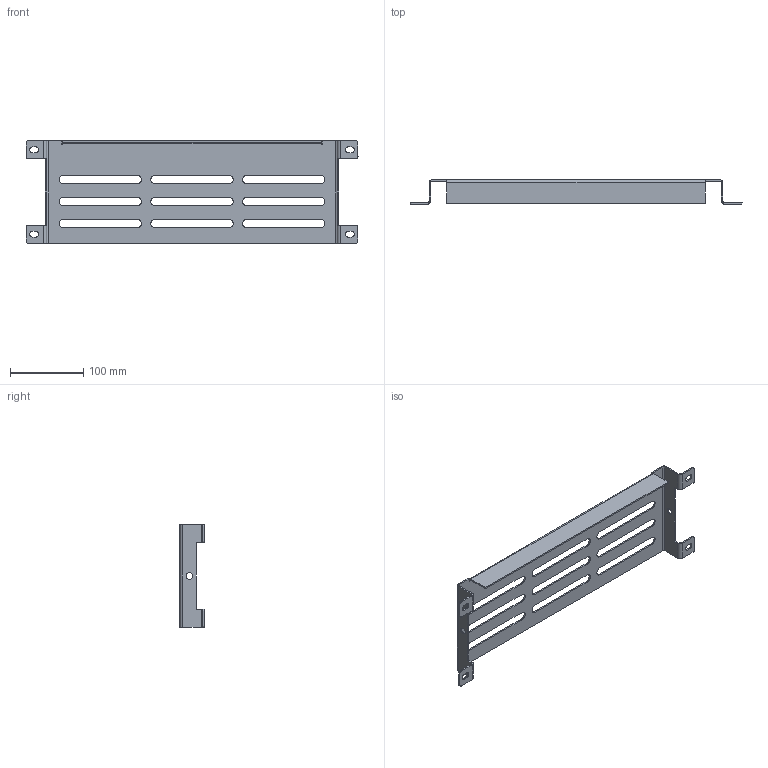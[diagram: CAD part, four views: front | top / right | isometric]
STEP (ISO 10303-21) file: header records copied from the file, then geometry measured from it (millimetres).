
FILE_DESCRIPTION (( 'STEP AP203' ), '1' );
FILE_NAME ('ORW-72.24.20.001 Ñòåíêà âîçäóøíîãî ôèëüòðà.STEP', '2025-10-13T13:18:56', ( 'Àíäðåé' ), ( '' ), 'SwSTEP 2.0', 'SolidWorks 2025', '' );
FILE_SCHEMA (( 'CONFIG_CONTROL_DESIGN' ));
Length unit declared in the file: millimetre
Products named in the file (1): ORW-72.24.20.001 Стенка воздушного фильтра_для комнатного
Bounding box: 452 x 33 x 140 mm (x, y, z)
Volume: 125241.3 mm3; surface area: 132912.1 mm2
Topology: 1 solids, 1 shells, 140 faces, 359 edges, 221 vertices
Faces by surface type: plane 90, cylinder 50
Full cylindrical faces by diameter (mm): 8.9 x2
Entity records: 4299 total; most frequent: DIRECTION 738, CARTESIAN_POINT 717, ORIENTED_EDGE 712, EDGE_CURVE 356, LINE 256, VECTOR 256, AXIS2_PLACEMENT_3D 241, VERTEX_POINT 220
